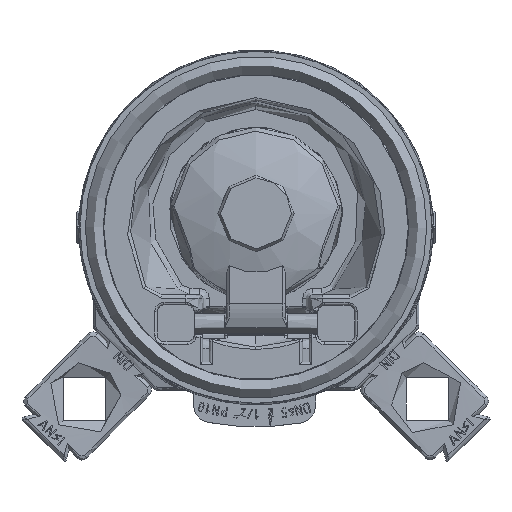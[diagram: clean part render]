
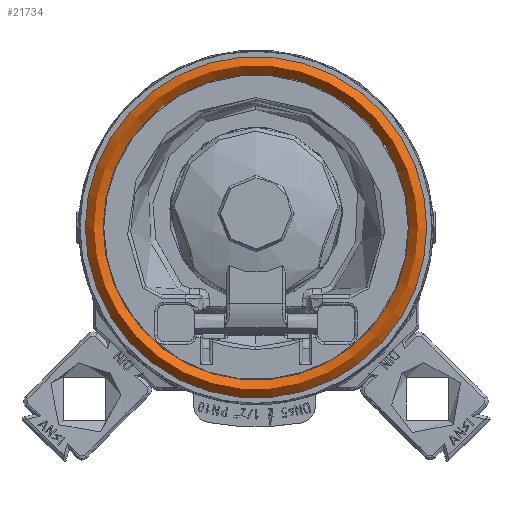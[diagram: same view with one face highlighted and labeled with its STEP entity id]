
A CAD part, top view. The second image highlights one B-rep face of the part: STEP entity #21734.
In plain terms, the highlighted toroidal (fillet/blend) face has major radius 48.39 mm and minor radius 2.67 mm.
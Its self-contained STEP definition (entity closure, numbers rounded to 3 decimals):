
#1007=TOROIDAL_SURFACE('',#23280,48.39,2.67);
#1778=CIRCLE('',#23281,2.67);
#1779=CIRCLE('',#23282,51.06);
#3208=FACE_OUTER_BOUND('',#4485,.T.);
#4485=EDGE_LOOP('',(#19190,#19192,#19191,#19193));
#9887=VERTEX_POINT('',#76872);
#12988=EDGE_CURVE('',#9887,#9887,#1778,.T.);
#12989=EDGE_CURVE('',#9887,#9887,#1779,.T.);
#19190=ORIENTED_EDGE('',*,*,#12988,.T.);
#19191=ORIENTED_EDGE('',*,*,#12988,.F.);
#19192=ORIENTED_EDGE('',*,*,#12989,.T.);
#19193=ORIENTED_EDGE('',*,*,#12989,.F.);
#21734=ADVANCED_FACE('',(#3208),#1007,.T.);
#23280=AXIS2_PLACEMENT_3D('',#76869,#27568,#27569);
#23281=AXIS2_PLACEMENT_3D('',#76870,#27570,#27571);
#23282=AXIS2_PLACEMENT_3D('',#76871,#27572,#27573);
#27568=DIRECTION('center_axis',(0.,1.,0.));
#27569=DIRECTION('ref_axis',(0.,0.,1.));
#27570=DIRECTION('center_axis',(-1.,0.,0.));
#27571=DIRECTION('ref_axis',(0.,0.,1.));
#27572=DIRECTION('center_axis',(0.,-1.,0.));
#27573=DIRECTION('ref_axis',(0.,0.,1.));
#76869=CARTESIAN_POINT('Origin',(0.,0.,0.));
#76870=CARTESIAN_POINT('Origin',(0.,0.,48.39));
#76871=CARTESIAN_POINT('Origin',(0.,0.,0.));
#76872=CARTESIAN_POINT('',(0.,0.,51.06));
